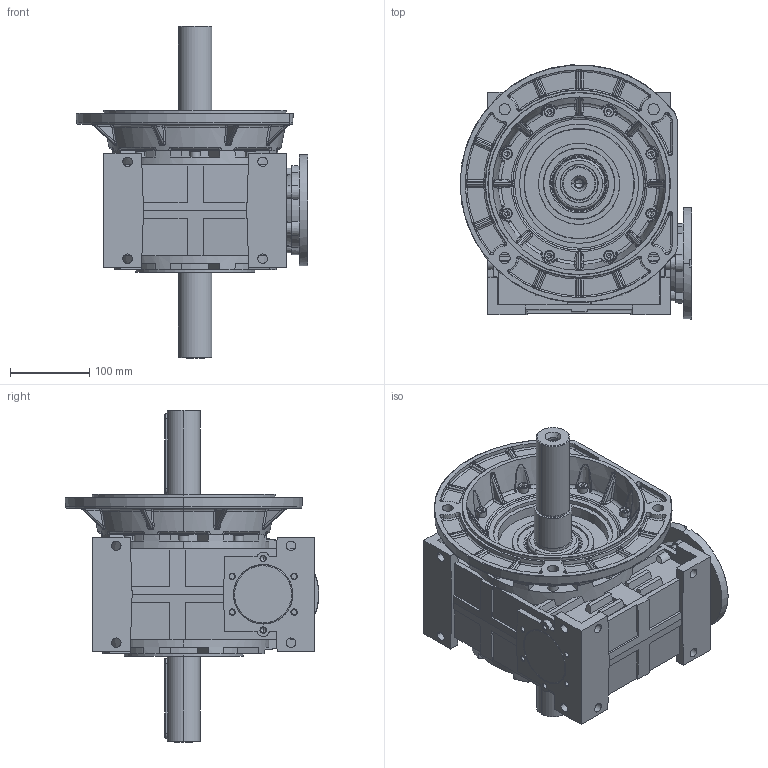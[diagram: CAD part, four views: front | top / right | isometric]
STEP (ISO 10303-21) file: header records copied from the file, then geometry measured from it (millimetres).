
FILE_DESCRIPTION (( 'STEP AP203' ), '1' );
FILE_NAME ('MR-100_140-24-K300_2-WD-2-3D.STEP', '2023-09-29T07:10:16', ( '' ), ( '' ), 'SwSTEP 2.0', 'SolidWorks 2022', '' );
FILE_SCHEMA (( 'CONFIG_CONTROL_DESIGN' ));
Products named in the file (1): MR-100_140-24-K300_2-WD-2-3D
Bounding box: 291.87 x 319.67 x 418 mm (x, y, z)
Volume: 8965026.7 mm3; surface area: 650054.4 mm2
Topology: 1 solids, 35 shells, 2508 faces, 6078 edges, 3686 vertices
Faces by surface type: plane 956, cylinder 478, bspline 412, cone 393, torus 233, sphere 36
Entity records: 91835 total; most frequent: CARTESIAN_POINT 35983, ORIENTED_EDGE 12008, DIRECTION 11297, EDGE_CURVE 6004, AXIS2_PLACEMENT_3D 4491, VERTEX_POINT 3686, EDGE_LOOP 2716, ADVANCED_FACE 2508
